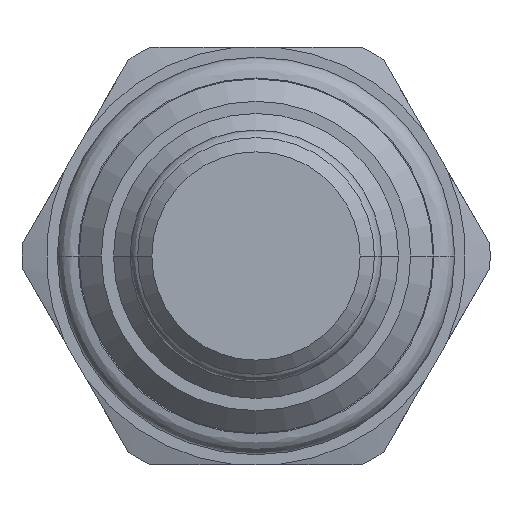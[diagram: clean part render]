
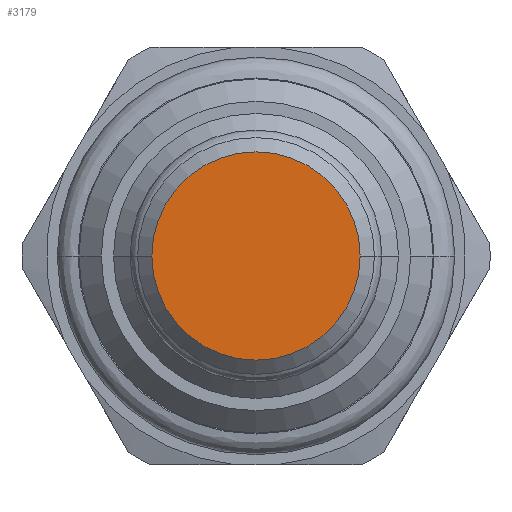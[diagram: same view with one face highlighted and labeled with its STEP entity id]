
A CAD part, front view. The second image highlights one B-rep face of the part: STEP entity #3179.
In plain terms, the highlighted planar face has unit normal (0, -1, 0).
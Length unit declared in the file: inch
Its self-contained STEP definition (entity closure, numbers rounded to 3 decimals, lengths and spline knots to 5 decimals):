
#1119=CARTESIAN_POINT('',(0.,-1.091,0.));
#1120=DIRECTION('',(0.,1.,0.));
#1121=DIRECTION('',(-1.,0.,0.));
#1122=AXIS2_PLACEMENT_3D('',#1119,#1120,#1121);
#1137=CARTESIAN_POINT('',(0.,-1.091,0.));
#1138=DIRECTION('',(0.,1.,0.));
#1139=DIRECTION('',(1.,0.,0.));
#1140=AXIS2_PLACEMENT_3D('',#1137,#1138,#1139);
#1386=CARTESIAN_POINT('',(0.2185,-1.091,0.));
#1387=CARTESIAN_POINT('',(-0.2185,-1.091,0.));
#1388=VERTEX_POINT('',#1386);
#1389=VERTEX_POINT('',#1387);
#3169=CARTESIAN_POINT('',(0.,-1.091,0.));
#3170=DIRECTION('',(0.,1.,0.));
#3171=DIRECTION('',(1.,0.,0.));
#3172=AXIS2_PLACEMENT_3D('',#3169,#3170,#3171);
#3173=PLANE('',#3172);
#3175=ORIENTED_EDGE('',*,*,#3174,.T.);
#3176=ORIENTED_EDGE('',*,*,#3159,.T.);
#3177=EDGE_LOOP('',(#3175,#3176));
#3178=FACE_OUTER_BOUND('',#3177,.F.);
#3179=ADVANCED_FACE('',(#3178),#3173,.F.);
#1123=CIRCLE('',#1122,0.2185);
#1141=CIRCLE('',#1140,0.2185);
#3159=EDGE_CURVE('',#1389,#1388,#1123,.T.);
#3174=EDGE_CURVE('',#1388,#1389,#1141,.T.);
